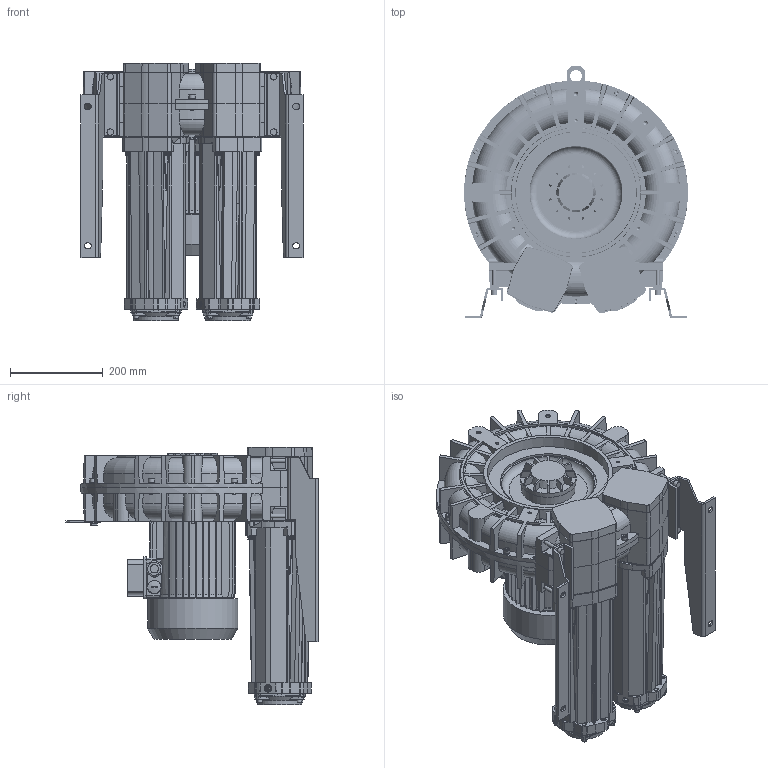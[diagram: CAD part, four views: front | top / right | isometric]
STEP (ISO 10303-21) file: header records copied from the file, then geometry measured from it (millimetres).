
FILE_DESCRIPTION (( 'STEP AP203' ), '1' );
FILE_NAME ('STP-L_e_08P_MS_MOR_IE3WR_100_3.0kW-3_25-00.step', '2025-02-28T14:49:06', ( '' ), ( '' ), 'SwSTEP 2.0', 'SolidWorks 2024', '' );
FILE_SCHEMA (( 'CONFIG_CONTROL_DESIGN' ));
Length unit declared in the file: millimetre
Products named in the file (1): STP-L_e_08P_MS_MOR_IE3WR_100_3.0kW-3_25-00
Bounding box: 481.94 x 543 x 555 mm (x, y, z)
Volume: 36692369.7 mm3; surface area: 2473128.7 mm2
Topology: 89 solids, 97 shells, 5587 faces, 14222 edges, 8866 vertices
Faces by surface type: plane 2019, cylinder 1750, bspline 861, torus 471, cone 445, sphere 41
Full cylindrical faces by diameter (mm): 5 x16, 6 x28, 6.4 x12, 6.8 x13, 7 x4, 7.5 x4, 8 x24, 8.4 x20, 8.5 x7, 8.566 x2, 8.8 x4, 9 x8, 9.5 x4, 9.98 x2, 10 x26, 12 x2, 12.02 x2, 13 x27, 14 x14, 16 x5, 16.5 x2, 18 x2, 20 x1, 21.4 x1, 24 x4, 25 x4, 28 x1, 85.3 x2, 108 x2, 115 x2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
Entity records: 240130 total; most frequent: CARTESIAN_POINT 116706, ORIENTED_EDGE 26794, DIRECTION 23758, EDGE_CURVE 13397, AXIS2_PLACEMENT_3D 9142, VERTEX_POINT 8629, EDGE_LOOP 6374, FACE_OUTER_BOUND 5941
